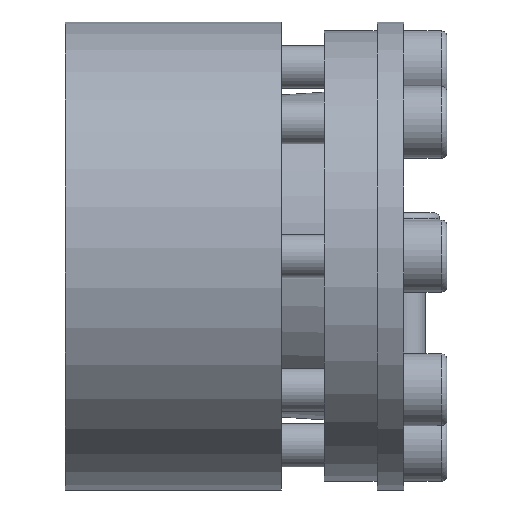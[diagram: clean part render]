
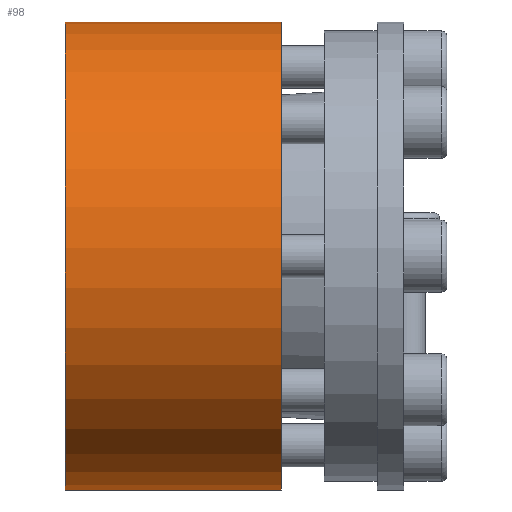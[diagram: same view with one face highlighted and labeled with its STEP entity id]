
A CAD part, left-side view. The second image highlights one B-rep face of the part: STEP entity #98.
In plain terms, the highlighted cylindrical face has radius 32.5 mm (diameter 65 mm), a partial arc.
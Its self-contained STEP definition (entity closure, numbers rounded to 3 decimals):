
#98 = ADVANCED_FACE( '', ( #225 ), #226, .T. );
#225 = FACE_OUTER_BOUND( '', #393, .T. );
#226 = CYLINDRICAL_SURFACE( '', #394, 32.5 );
#393 = EDGE_LOOP( '', ( #636, #637, #638, #639 ) );
#394 = AXIS2_PLACEMENT_3D( '', #640, #641, #642 );
#636 = ORIENTED_EDGE( '', *, *, #899, .F. );
#637 = ORIENTED_EDGE( '', *, *, #872, .T. );
#638 = ORIENTED_EDGE( '', *, *, #902, .T. );
#639 = ORIENTED_EDGE( '', *, *, #903, .T. );
#640 = CARTESIAN_POINT( '', ( 0., -60., 0. ) );
#641 = DIRECTION( '', ( 0., 1., 0. ) );
#642 = DIRECTION( '', ( 0., 0., -1. ) );
#872 = EDGE_CURVE( '', #1057, #1055, #1058, .F. );
#899 = EDGE_CURVE( '', #1057, #1102, #1103, .T. );
#902 = EDGE_CURVE( '', #1055, #1106, #1107, .T. );
#903 = EDGE_CURVE( '', #1106, #1102, #1108, .T. );
#1055 = VERTEX_POINT( '', #1365 );
#1057 = VERTEX_POINT( '', #1368 );
#1058 = LINE( '', #1369, #1370 );
#1102 = VERTEX_POINT( '', #1423 );
#1103 = CIRCLE( '', #1424, 32.5 );
#1106 = VERTEX_POINT( '', #1428 );
#1107 = CIRCLE( '', #1429, 32.5 );
#1108 = LINE( '', #1430, #1431 );
#1365 = CARTESIAN_POINT( '', ( 11.834, 47., 30.269 ) );
#1368 = CARTESIAN_POINT( '', ( 11.834, 17., 30.269 ) );
#1369 = CARTESIAN_POINT( '', ( 11.834, -60., 30.269 ) );
#1370 = VECTOR( '', #1580, 1000. );
#1423 = CARTESIAN_POINT( '', ( 13.035, 17., 29.771 ) );
#1424 = AXIS2_PLACEMENT_3D( '', #1626, #1627, #1628 );
#1428 = CARTESIAN_POINT( '', ( 13.035, 47., 29.771 ) );
#1429 = AXIS2_PLACEMENT_3D( '', #1630, #1631, #1632 );
#1430 = CARTESIAN_POINT( '', ( 13.035, -60., 29.771 ) );
#1431 = VECTOR( '', #1633, 1000. );
#1580 = DIRECTION( '', ( 0., -1., 0. ) );
#1626 = CARTESIAN_POINT( '', ( 0., 17., 0. ) );
#1627 = DIRECTION( '', ( 0., -1., 0. ) );
#1628 = DIRECTION( '', ( 0., 0., -1. ) );
#1630 = CARTESIAN_POINT( '', ( 0., 47., 0. ) );
#1631 = DIRECTION( '', ( 0., -1., 0. ) );
#1632 = DIRECTION( '', ( 0., 0., -1. ) );
#1633 = DIRECTION( '', ( 0., -1., 0. ) );
